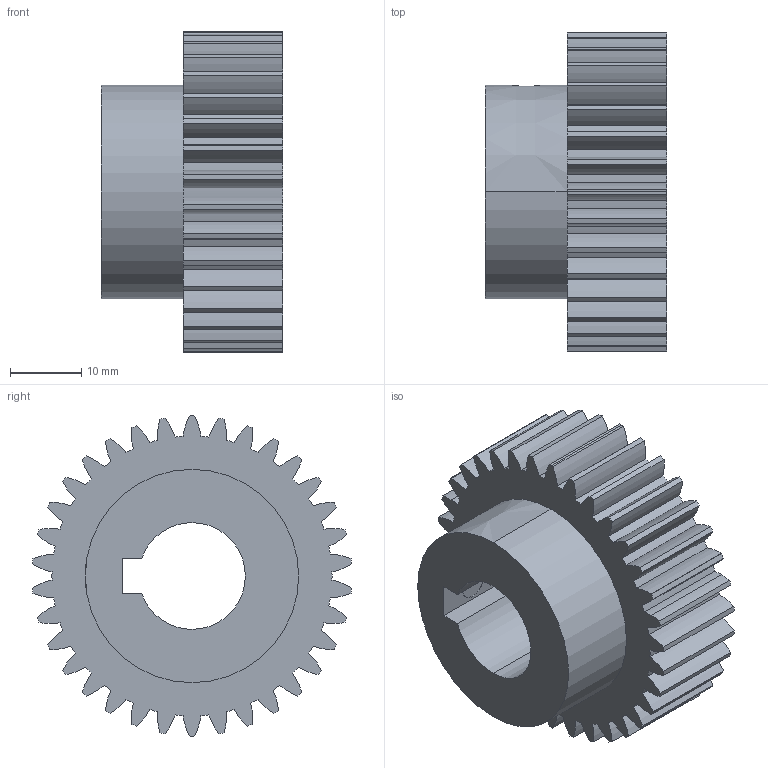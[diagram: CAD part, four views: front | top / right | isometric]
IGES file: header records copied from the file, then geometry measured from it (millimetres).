
Start section: 3D InterOp IGES (v. 2020 1.0.1), Spatial Corp. Copyright (c) 1999-2017.
Global section: file name: p125_w14_t34_bk.igs; native system: Spatial Corp.; preprocessor: 3D InterOp ACIS/IGES; author: TraceParts; organization: TraceParts S.A.; date: 20220624.033533; units: millimetre
Bounding box: 25.5 x 44.87 x 45 mm (x, y, z)
Surface area: 8590.7 mm2 (no closed solid volume)
Topology: 0 solids, 0 shells, 170 faces, 984 edges, 984 vertices
Faces by surface type: revolution 155, extrusion 15
